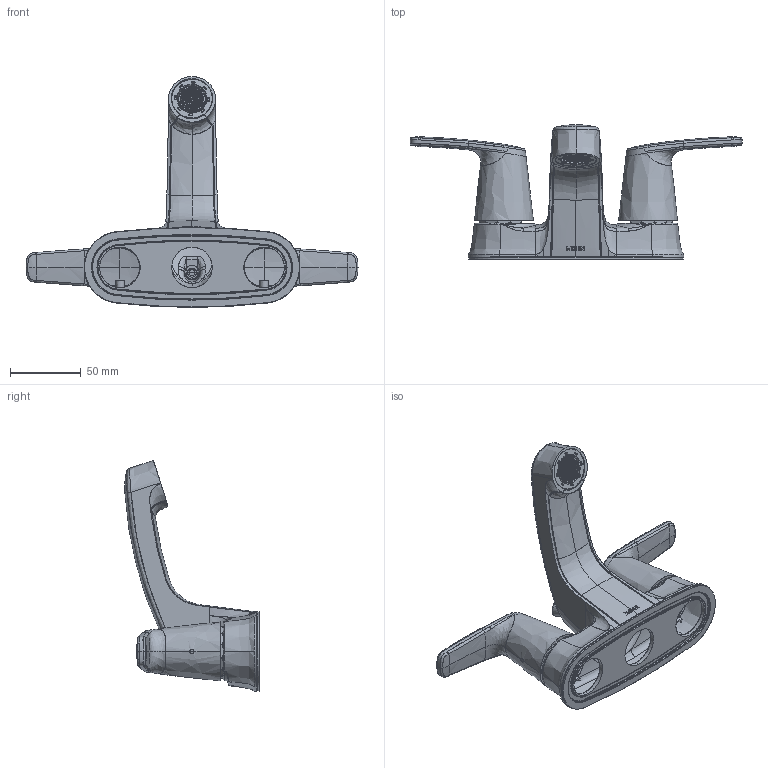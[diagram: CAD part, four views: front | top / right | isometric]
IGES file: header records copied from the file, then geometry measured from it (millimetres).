
Start section: SolidWorks IGES file using analytic representation for surfaces
Global section: file name: C:\Users\tzhang10\Desktop\sku_499525series_igs.IGS; native system: SolidWorks 2023; preprocessor: SolidWorks 2023; author: tzhang10; date: 250624.094809; units: inch
Bounding box: 234.04 x 94.62 x 162.75 mm (x, y, z)
Surface area: 82774.9 mm2 (no closed solid volume)
Topology: 0 solids, 0 shells, 1173 faces, 12611 edges, 12601 vertices
Faces by surface type: bspline 847, revolution 326
